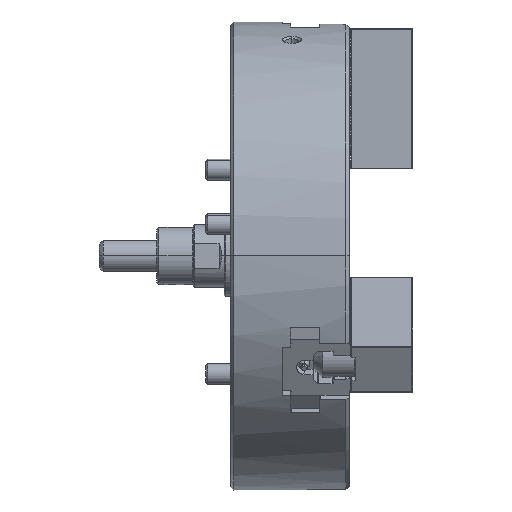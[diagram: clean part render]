
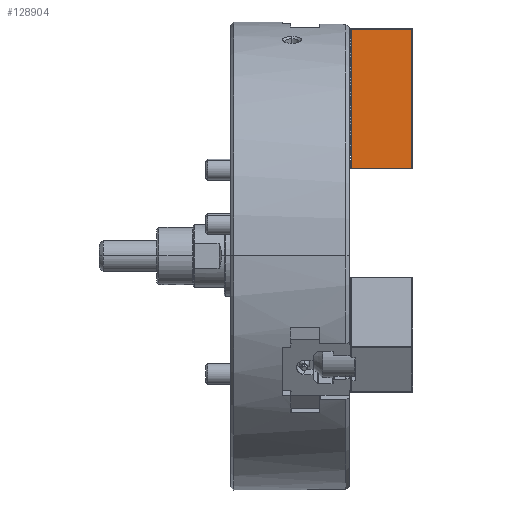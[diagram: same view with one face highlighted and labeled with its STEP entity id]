
A CAD part, top view. The second image highlights one B-rep face of the part: STEP entity #128904.
In plain terms, the highlighted planar face has unit normal (0, 0, 1).
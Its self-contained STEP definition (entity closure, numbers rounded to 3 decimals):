
#945 = LINE ( 'NONE', #7190, #80127 ) ;
#1627 = VECTOR ( 'NONE', #163398, 1000. ) ;
#4501 = CARTESIAN_POINT ( 'NONE',  ( 1.4, 0.6, 25. ) ) ;
#7190 = CARTESIAN_POINT ( 'NONE',  ( 59.4, 134.4, 25. ) ) ;
#19592 = EDGE_CURVE ( 'NONE', #169915, #65124, #29352, .T. ) ;
#23401 = VECTOR ( 'NONE', #94033, 1000. ) ;
#27534 = ORIENTED_EDGE ( 'NONE', *, *, #35005, .T. ) ;
#29352 = LINE ( 'NONE', #106817, #23401 ) ;
#35005 = EDGE_CURVE ( 'NONE', #161201, #169915, #945, .T. ) ;
#35018 = DIRECTION ( 'NONE',  ( 0., 1., 0. ) ) ;
#36303 = AXIS2_PLACEMENT_3D ( 'NONE', #115609, #180412, #35018 ) ;
#49795 = CARTESIAN_POINT ( 'NONE',  ( 1.4, 0., 25. ) ) ;
#50896 = PLANE ( 'NONE',  #36303 ) ;
#50918 = DIRECTION ( 'NONE',  ( -1., 0., 0. ) ) ;
#63515 = ORIENTED_EDGE ( 'NONE', *, *, #19592, .T. ) ;
#65124 = VERTEX_POINT ( 'NONE', #141492 ) ;
#65714 = LINE ( 'NONE', #49795, #1627 ) ;
#80127 = VECTOR ( 'NONE', #202415, 1000. ) ;
#94033 = DIRECTION ( 'NONE',  ( -1., 0., 0. ) ) ;
#106817 = CARTESIAN_POINT ( 'NONE',  ( 60., 134.4, 25. ) ) ;
#114555 = FACE_OUTER_BOUND ( 'NONE', #143635, .T. ) ;
#114890 = CARTESIAN_POINT ( 'NONE',  ( 59.4, 0.6, 25. ) ) ;
#115609 = CARTESIAN_POINT ( 'NONE',  ( 60., 0.6, 25. ) ) ;
#116657 = EDGE_CURVE ( 'NONE', #161201, #191426, #147509, .T. ) ;
#128904 = ADVANCED_FACE ( 'NONE', ( #114555 ), #50896, .F. ) ;
#132193 = ORIENTED_EDGE ( 'NONE', *, *, #116657, .F. ) ;
#133718 = ORIENTED_EDGE ( 'NONE', *, *, #145351, .F. ) ;
#141492 = CARTESIAN_POINT ( 'NONE',  ( 1.4, 134.4, 25. ) ) ;
#143635 = EDGE_LOOP ( 'NONE', ( #132193, #27534, #63515, #133718 ) ) ;
#145351 = EDGE_CURVE ( 'NONE', #191426, #65124, #65714, .T. ) ;
#147509 = LINE ( 'NONE', #196364, #160078 ) ;
#151657 = CARTESIAN_POINT ( 'NONE',  ( 59.4, 134.4, 25. ) ) ;
#160078 = VECTOR ( 'NONE', #50918, 1000. ) ;
#161201 = VERTEX_POINT ( 'NONE', #114890 ) ;
#163398 = DIRECTION ( 'NONE',  ( 0., 1., 0. ) ) ;
#169915 = VERTEX_POINT ( 'NONE', #151657 ) ;
#180412 = DIRECTION ( 'NONE',  ( 0., 0., -1. ) ) ;
#191426 = VERTEX_POINT ( 'NONE', #4501 ) ;
#196364 = CARTESIAN_POINT ( 'NONE',  ( 60., 0.6, 25. ) ) ;
#202415 = DIRECTION ( 'NONE',  ( 0., 1., 0. ) ) ;
